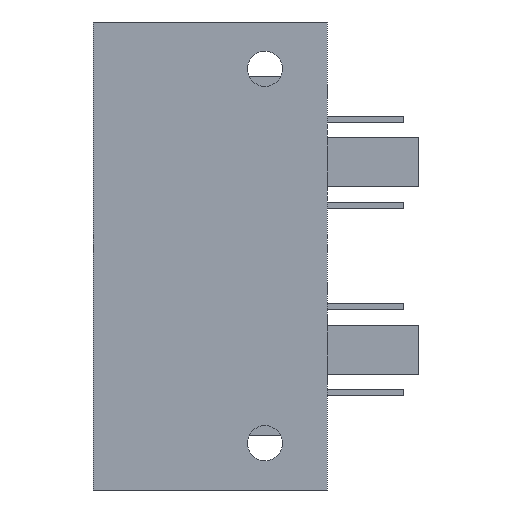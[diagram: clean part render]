
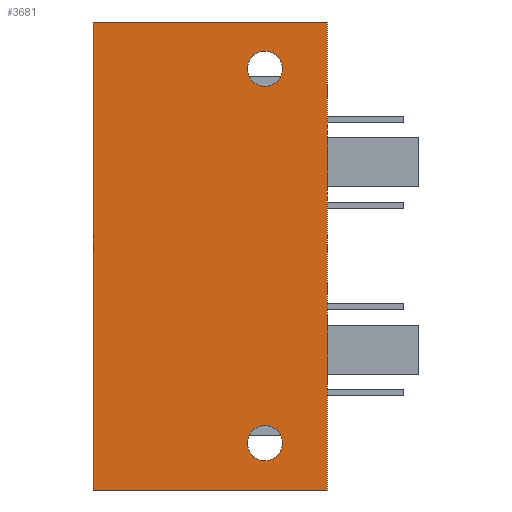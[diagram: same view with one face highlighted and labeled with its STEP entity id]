
A CAD part, left-side view. The second image highlights one B-rep face of the part: STEP entity #3681.
In plain terms, the highlighted planar face has unit normal (-1, 0, 0).
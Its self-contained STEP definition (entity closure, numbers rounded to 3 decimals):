
#95 = ORIENTED_EDGE ( 'NONE', *, *, #4165, .T. ) ;
#105 = ORIENTED_EDGE ( 'NONE', *, *, #4146, .F. ) ;
#111 = ORIENTED_EDGE ( 'NONE', *, *, #4137, .T. ) ;
#116 = ORIENTED_EDGE ( 'NONE', *, *, #4173, .T. ) ;
#118 = ORIENTED_EDGE ( 'NONE', *, *, #4176, .T. ) ;
#127 = ORIENTED_EDGE ( 'NONE', *, *, #4168, .T. ) ;
#154 = ORIENTED_EDGE ( 'NONE', *, *, #1520, .T. ) ;
#1520 = EDGE_CURVE ( 'NONE', #2191, #2295, #5520, .T. ) ;
#1542 = EDGE_CURVE ( 'NONE', #2197, #2301, #5550, .T. ) ;
#2032 = ORIENTED_EDGE ( 'NONE', *, *, #1542, .T. ) ;
#2191 = VERTEX_POINT ( 'NONE', #6690 ) ;
#2197 = VERTEX_POINT ( 'NONE', #6696 ) ;
#2295 = VERTEX_POINT ( 'NONE', #6794 ) ;
#2301 = VERTEX_POINT ( 'NONE', #6800 ) ;
#2581 = VERTEX_POINT ( 'NONE', #7080 ) ;
#2646 = VERTEX_POINT ( 'NONE', #7145 ) ;
#2657 = VERTEX_POINT ( 'NONE', #7156 ) ;
#2660 = VERTEX_POINT ( 'NONE', #7159 ) ;
#2780 = CARTESIAN_POINT ( 'NONE',  ( -10., -7., -54. ) ) ;
#2781 = DIRECTION ( 'NONE',  ( 1., 0., 0. ) ) ;
#2782 = DIRECTION ( 'NONE',  ( 0., 0., -1. ) ) ;
#2839 = CARTESIAN_POINT ( 'NONE',  ( -10., -7., -6. ) ) ;
#2840 = DIRECTION ( 'NONE',  ( 1., 0., 0. ) ) ;
#2841 = DIRECTION ( 'NONE',  ( 0., 0., -1. ) ) ;
#3681 = ADVANCED_FACE ( 'NONE', ( #12563, #12560, #12568 ), #12271, .T. ) ;
#3830 = EDGE_LOOP ( 'NONE', ( #118, #105, #116, #111 ) ) ;
#3845 = EDGE_LOOP ( 'NONE', ( #95, #154 ) ) ;
#3846 = EDGE_LOOP ( 'NONE', ( #127, #2032 ) ) ;
#4137 = EDGE_CURVE ( 'NONE', #2660, #2657, #14467, .T. ) ;
#4146 = EDGE_CURVE ( 'NONE', #2646, #2581, #14488, .T. ) ;
#4165 = EDGE_CURVE ( 'NONE', #2295, #2191, #14513, .T. ) ;
#4168 = EDGE_CURVE ( 'NONE', #2301, #2197, #14517, .T. ) ;
#4173 = EDGE_CURVE ( 'NONE', #2646, #2660, #14516, .T. ) ;
#4176 = EDGE_CURVE ( 'NONE', #2657, #2581, #14519, .T. ) ;
#4371 = AXIS2_PLACEMENT_3D ( 'NONE', #2780, #2781, #2782 ) ;
#4386 = AXIS2_PLACEMENT_3D ( 'NONE', #2839, #2840, #2841 ) ;
#5520 = CIRCLE ( 'NONE', #4371, 2.25 ) ;
#5550 = CIRCLE ( 'NONE', #4386, 2.25 ) ;
#6690 = CARTESIAN_POINT ( 'NONE',  ( -10., -7., -51.75 ) ) ;
#6696 = CARTESIAN_POINT ( 'NONE',  ( -10., -7., -3.75 ) ) ;
#6794 = CARTESIAN_POINT ( 'NONE',  ( -10., -7., -56.25 ) ) ;
#6800 = CARTESIAN_POINT ( 'NONE',  ( -10., -7., -8.25 ) ) ;
#7080 = CARTESIAN_POINT ( 'NONE',  ( -10., -15., -60. ) ) ;
#7145 = CARTESIAN_POINT ( 'NONE',  ( -10., -15., 0. ) ) ;
#7156 = CARTESIAN_POINT ( 'NONE',  ( -10., 15., -60. ) ) ;
#7159 = CARTESIAN_POINT ( 'NONE',  ( -10., 15., 0. ) ) ;
#10520 = AXIS2_PLACEMENT_3D ( 'NONE', #12272, #12273, #12274 ) ;
#10732 = AXIS2_PLACEMENT_3D ( 'NONE', #15141, #15148, #15149 ) ;
#10735 = AXIS2_PLACEMENT_3D ( 'NONE', #15150, #15157, #15158 ) ;
#12271 = PLANE ( 'NONE',  #10520 ) ;
#12272 = CARTESIAN_POINT ( 'NONE',  ( -10., 15., 0. ) ) ;
#12273 = DIRECTION ( 'NONE',  ( -1., 0., 0. ) ) ;
#12274 = DIRECTION ( 'NONE',  ( 0., 0.707, 0.707 ) ) ;
#12560 = FACE_BOUND ( 'NONE', #3845, .T. ) ;
#12563 = FACE_OUTER_BOUND ( 'NONE', #3830, .T. ) ;
#12568 = FACE_BOUND ( 'NONE', #3846, .T. ) ;
#14467 = LINE ( 'NONE', #15077, #14470 ) ;
#14470 = VECTOR ( 'NONE', #15078, 1000. ) ;
#14488 = LINE ( 'NONE', #15098, #14489 ) ;
#14489 = VECTOR ( 'NONE', #15099, 1000. ) ;
#14513 = CIRCLE ( 'NONE', #10732, 2.25 ) ;
#14516 = LINE ( 'NONE', #15171, #14521 ) ;
#14517 = CIRCLE ( 'NONE', #10735, 2.25 ) ;
#14519 = LINE ( 'NONE', #15179, #14524 ) ;
#14521 = VECTOR ( 'NONE', #15172, 1000. ) ;
#14524 = VECTOR ( 'NONE', #15180, 1000. ) ;
#15077 = CARTESIAN_POINT ( 'NONE',  ( -10., 15., 0. ) ) ;
#15078 = DIRECTION ( 'NONE',  ( 0., 0., -1. ) ) ;
#15098 = CARTESIAN_POINT ( 'NONE',  ( -10., -15., 0. ) ) ;
#15099 = DIRECTION ( 'NONE',  ( 0., 0., -1. ) ) ;
#15141 = CARTESIAN_POINT ( 'NONE',  ( -10., -7., -54. ) ) ;
#15148 = DIRECTION ( 'NONE',  ( 1., 0., 0. ) ) ;
#15149 = DIRECTION ( 'NONE',  ( 0., 0., -1. ) ) ;
#15150 = CARTESIAN_POINT ( 'NONE',  ( -10., -7., -6. ) ) ;
#15157 = DIRECTION ( 'NONE',  ( 1., 0., 0. ) ) ;
#15158 = DIRECTION ( 'NONE',  ( 0., 0., -1. ) ) ;
#15171 = CARTESIAN_POINT ( 'NONE',  ( -10., -15., 0. ) ) ;
#15172 = DIRECTION ( 'NONE',  ( 0., 1., 0. ) ) ;
#15179 = CARTESIAN_POINT ( 'NONE',  ( -10., -15., -60. ) ) ;
#15180 = DIRECTION ( 'NONE',  ( 0., -1., 0. ) ) ;
